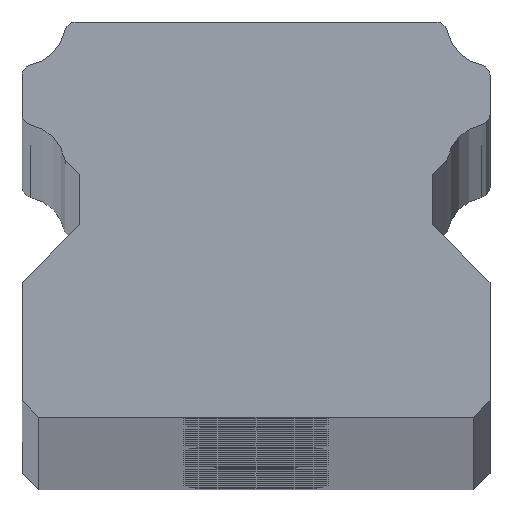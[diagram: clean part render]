
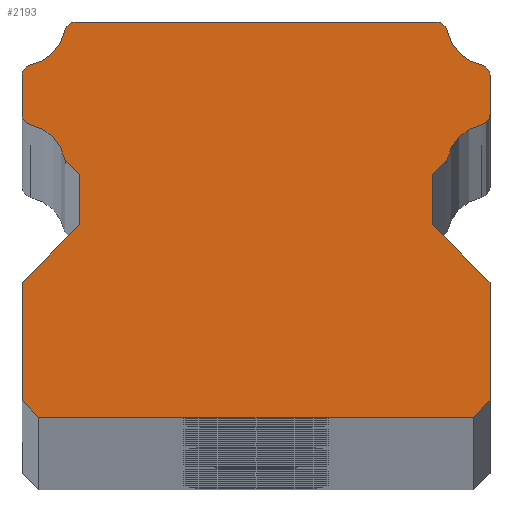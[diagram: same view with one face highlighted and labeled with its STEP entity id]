
A CAD part, top view. The second image highlights one B-rep face of the part: STEP entity #2193.
In plain terms, the highlighted planar face has unit normal (0, 0, 1).
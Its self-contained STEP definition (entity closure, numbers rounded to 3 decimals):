
#217=FACE_OUTER_BOUND('',#357,.T.);
#357=EDGE_LOOP('',(#1562,#1563,#1564,#1565,#1566,#1567,#1568,#1569,#1570,
#1571,#1572,#1573,#1574,#1575,#1576,#1577,#1578,#1579,#1580,#1581,#1582,
#1583,#1584,#1585));
#624=LINE('',#3453,#752);
#625=LINE('',#3455,#753);
#626=LINE('',#3457,#754);
#627=LINE('',#3459,#755);
#628=LINE('',#3461,#756);
#629=LINE('',#3463,#757);
#630=LINE('',#3465,#758);
#631=LINE('',#3467,#759);
#632=LINE('',#3469,#760);
#633=LINE('',#3475,#761);
#634=LINE('',#3483,#762);
#635=LINE('',#3491,#763);
#636=LINE('',#3497,#764);
#637=LINE('',#3498,#765);
#752=VECTOR('',#2686,1.);
#753=VECTOR('',#2687,1.);
#754=VECTOR('',#2688,1.);
#755=VECTOR('',#2689,1.);
#756=VECTOR('',#2690,1.);
#757=VECTOR('',#2691,1.);
#758=VECTOR('',#2692,1.);
#759=VECTOR('',#2693,1.);
#760=VECTOR('',#2694,1.);
#761=VECTOR('',#2699,1.);
#762=VECTOR('',#2706,1.);
#763=VECTOR('',#2713,1.);
#764=VECTOR('',#2718,1.);
#765=VECTOR('',#2719,1.);
#876=CIRCLE('',#2346,4.2);
#877=CIRCLE('',#2347,1.);
#878=CIRCLE('',#2348,1.);
#879=CIRCLE('',#2349,4.2);
#880=CIRCLE('',#2350,1.);
#881=CIRCLE('',#2351,1.);
#882=CIRCLE('',#2352,4.2);
#883=CIRCLE('',#2353,1.);
#884=CIRCLE('',#2354,1.);
#885=CIRCLE('',#2355,4.2);
#1062=VERTEX_POINT('',#3451);
#1063=VERTEX_POINT('',#3452);
#1064=VERTEX_POINT('',#3454);
#1065=VERTEX_POINT('',#3456);
#1066=VERTEX_POINT('',#3458);
#1067=VERTEX_POINT('',#3460);
#1068=VERTEX_POINT('',#3462);
#1069=VERTEX_POINT('',#3464);
#1070=VERTEX_POINT('',#3466);
#1071=VERTEX_POINT('',#3468);
#1072=VERTEX_POINT('',#3470);
#1073=VERTEX_POINT('',#3472);
#1074=VERTEX_POINT('',#3474);
#1075=VERTEX_POINT('',#3476);
#1076=VERTEX_POINT('',#3478);
#1077=VERTEX_POINT('',#3480);
#1078=VERTEX_POINT('',#3482);
#1079=VERTEX_POINT('',#3484);
#1080=VERTEX_POINT('',#3486);
#1081=VERTEX_POINT('',#3488);
#1082=VERTEX_POINT('',#3490);
#1083=VERTEX_POINT('',#3492);
#1084=VERTEX_POINT('',#3494);
#1085=VERTEX_POINT('',#3496);
#1262=EDGE_CURVE('',#1062,#1063,#624,.T.);
#1263=EDGE_CURVE('',#1064,#1062,#625,.T.);
#1264=EDGE_CURVE('',#1065,#1064,#626,.T.);
#1265=EDGE_CURVE('',#1066,#1065,#627,.T.);
#1266=EDGE_CURVE('',#1067,#1066,#628,.T.);
#1267=EDGE_CURVE('',#1068,#1067,#629,.T.);
#1268=EDGE_CURVE('',#1069,#1068,#630,.T.);
#1269=EDGE_CURVE('',#1070,#1069,#631,.T.);
#1270=EDGE_CURVE('',#1071,#1070,#632,.T.);
#1271=EDGE_CURVE('',#1072,#1071,#876,.T.);
#1272=EDGE_CURVE('',#1073,#1072,#877,.T.);
#1273=EDGE_CURVE('',#1074,#1073,#633,.T.);
#1274=EDGE_CURVE('',#1075,#1074,#878,.T.);
#1275=EDGE_CURVE('',#1076,#1075,#879,.T.);
#1276=EDGE_CURVE('',#1077,#1076,#880,.T.);
#1277=EDGE_CURVE('',#1078,#1077,#634,.T.);
#1278=EDGE_CURVE('',#1079,#1078,#881,.T.);
#1279=EDGE_CURVE('',#1080,#1079,#882,.T.);
#1280=EDGE_CURVE('',#1081,#1080,#883,.T.);
#1281=EDGE_CURVE('',#1082,#1081,#635,.T.);
#1282=EDGE_CURVE('',#1083,#1082,#884,.T.);
#1283=EDGE_CURVE('',#1084,#1083,#885,.T.);
#1284=EDGE_CURVE('',#1085,#1084,#636,.T.);
#1285=EDGE_CURVE('',#1063,#1085,#637,.T.);
#1562=ORIENTED_EDGE('',*,*,#1262,.F.);
#1563=ORIENTED_EDGE('',*,*,#1263,.F.);
#1564=ORIENTED_EDGE('',*,*,#1264,.F.);
#1565=ORIENTED_EDGE('',*,*,#1265,.F.);
#1566=ORIENTED_EDGE('',*,*,#1266,.F.);
#1567=ORIENTED_EDGE('',*,*,#1267,.F.);
#1568=ORIENTED_EDGE('',*,*,#1268,.F.);
#1569=ORIENTED_EDGE('',*,*,#1269,.F.);
#1570=ORIENTED_EDGE('',*,*,#1270,.F.);
#1571=ORIENTED_EDGE('',*,*,#1271,.F.);
#1572=ORIENTED_EDGE('',*,*,#1272,.F.);
#1573=ORIENTED_EDGE('',*,*,#1273,.F.);
#1574=ORIENTED_EDGE('',*,*,#1274,.F.);
#1575=ORIENTED_EDGE('',*,*,#1275,.F.);
#1576=ORIENTED_EDGE('',*,*,#1276,.F.);
#1577=ORIENTED_EDGE('',*,*,#1277,.F.);
#1578=ORIENTED_EDGE('',*,*,#1278,.F.);
#1579=ORIENTED_EDGE('',*,*,#1279,.F.);
#1580=ORIENTED_EDGE('',*,*,#1280,.F.);
#1581=ORIENTED_EDGE('',*,*,#1281,.F.);
#1582=ORIENTED_EDGE('',*,*,#1282,.F.);
#1583=ORIENTED_EDGE('',*,*,#1283,.F.);
#1584=ORIENTED_EDGE('',*,*,#1284,.F.);
#1585=ORIENTED_EDGE('',*,*,#1285,.F.);
#2139=PLANE('',#2345);
#2193=ADVANCED_FACE('',(#217),#2139,.T.);
#2345=AXIS2_PLACEMENT_3D('',#3450,#2684,#2685);
#2346=AXIS2_PLACEMENT_3D('',#3471,#2695,#2696);
#2347=AXIS2_PLACEMENT_3D('',#3473,#2697,#2698);
#2348=AXIS2_PLACEMENT_3D('',#3477,#2700,#2701);
#2349=AXIS2_PLACEMENT_3D('',#3479,#2702,#2703);
#2350=AXIS2_PLACEMENT_3D('',#3481,#2704,#2705);
#2351=AXIS2_PLACEMENT_3D('',#3485,#2707,#2708);
#2352=AXIS2_PLACEMENT_3D('',#3487,#2709,#2710);
#2353=AXIS2_PLACEMENT_3D('',#3489,#2711,#2712);
#2354=AXIS2_PLACEMENT_3D('',#3493,#2714,#2715);
#2355=AXIS2_PLACEMENT_3D('',#3495,#2716,#2717);
#2684=DIRECTION('center_axis',(0.,0.,1.));
#2685=DIRECTION('ref_axis',(1.,0.,0.));
#2686=DIRECTION('',(0.707,0.707,0.));
#2687=DIRECTION('',(0.,1.,0.));
#2688=DIRECTION('',(-0.707,0.707,0.));
#2689=DIRECTION('',(-1.,0.,0.));
#2690=DIRECTION('',(-0.707,-0.707,0.));
#2691=DIRECTION('',(0.,-1.,0.));
#2692=DIRECTION('',(0.707,-0.707,0.));
#2693=DIRECTION('',(0.,-1.,0.));
#2694=DIRECTION('',(-0.707,-0.707,0.));
#2695=DIRECTION('center_axis',(0.,0.,1.));
#2696=DIRECTION('ref_axis',(-0.986,0.169,0.));
#2697=DIRECTION('center_axis',(0.,0.,-1.));
#2698=DIRECTION('ref_axis',(0.192,-0.981,0.));
#2699=DIRECTION('',(0.,-1.,0.));
#2700=DIRECTION('center_axis',(0.,0.,-1.));
#2701=DIRECTION('ref_axis',(1.,0.,0.));
#2702=DIRECTION('center_axis',(0.,0.,1.));
#2703=DIRECTION('ref_axis',(-0.192,-0.981,0.));
#2704=DIRECTION('center_axis',(0.,0.,-1.));
#2705=DIRECTION('ref_axis',(0.981,0.192,0.));
#2706=DIRECTION('',(1.,0.,0.));
#2707=DIRECTION('center_axis',(0.,0.,-1.));
#2708=DIRECTION('ref_axis',(0.,1.,0.));
#2709=DIRECTION('center_axis',(0.,0.,1.));
#2710=DIRECTION('ref_axis',(0.981,-0.192,0.));
#2711=DIRECTION('center_axis',(0.,0.,-1.));
#2712=DIRECTION('ref_axis',(-0.192,0.981,0.));
#2713=DIRECTION('',(0.,1.,0.));
#2714=DIRECTION('center_axis',(0.,0.,-1.));
#2715=DIRECTION('ref_axis',(-1.,0.,0.));
#2716=DIRECTION('center_axis',(0.,0.,1.));
#2717=DIRECTION('ref_axis',(0.192,0.981,0.));
#2718=DIRECTION('',(-0.707,0.707,0.));
#2719=DIRECTION('',(0.,1.,0.));
#3450=CARTESIAN_POINT('Origin',(0.,-19.838,
4000.));
#3451=CARTESIAN_POINT('',(-22.5,-25.,4000.));
#3452=CARTESIAN_POINT('',(-17.,-19.5,4000.));
#3453=CARTESIAN_POINT('',(-12.834,-15.334,4000.));
#3454=CARTESIAN_POINT('',(-22.5,-36.4,4000.));
#3455=CARTESIAN_POINT('',(-22.5,-22.419,4000.));
#3456=CARTESIAN_POINT('',(-20.9,-38.,4000.));
#3457=CARTESIAN_POINT('',(-21.016,-37.884,4000.));
#3458=CARTESIAN_POINT('',(20.9,-38.,4000.));
#3459=CARTESIAN_POINT('',(-10.45,-38.,4000.));
#3460=CARTESIAN_POINT('',(22.5,-36.4,4000.));
#3461=CARTESIAN_POINT('',(20.216,-38.684,4000.));
#3462=CARTESIAN_POINT('',(22.5,-25.,4000.));
#3463=CARTESIAN_POINT('',(22.5,-28.119,4000.));
#3464=CARTESIAN_POINT('',(17.,-19.5,4000.));
#3465=CARTESIAN_POINT('',(15.584,-18.084,4000.));
#3466=CARTESIAN_POINT('',(17.,-14.65,4000.));
#3467=CARTESIAN_POINT('',(17.,-19.669,4000.));
#3468=CARTESIAN_POINT('',(18.361,-13.289,4000.));
#3469=CARTESIAN_POINT('',(11.453,-20.197,4000.));
#3470=CARTESIAN_POINT('',(21.692,-9.878,4000.));
#3471=CARTESIAN_POINT('Origin',(22.5,-14.,4000.));
#3472=CARTESIAN_POINT('',(22.5,-8.897,4000.));
#3473=CARTESIAN_POINT('Origin',(21.5,-8.897,4000.));
#3474=CARTESIAN_POINT('',(22.5,-5.103,4000.));
#3475=CARTESIAN_POINT('',(22.5,-14.367,4000.));
#3476=CARTESIAN_POINT('',(21.692,-4.122,4000.));
#3477=CARTESIAN_POINT('Origin',(21.5,-5.103,4000.));
#3478=CARTESIAN_POINT('',(18.378,-0.808,4000.));
#3479=CARTESIAN_POINT('Origin',(22.5,0.,4000.));
#3480=CARTESIAN_POINT('',(17.397,0.,4000.));
#3481=CARTESIAN_POINT('Origin',(17.397,-1.,4000.));
#3482=CARTESIAN_POINT('',(-17.397,0.,4000.));
#3483=CARTESIAN_POINT('',(8.699,0.,4000.));
#3484=CARTESIAN_POINT('',(-18.378,-0.808,4000.));
#3485=CARTESIAN_POINT('Origin',(-17.397,-1.,4000.));
#3486=CARTESIAN_POINT('',(-21.692,-4.122,4000.));
#3487=CARTESIAN_POINT('Origin',(-22.5,0.,4000.));
#3488=CARTESIAN_POINT('',(-22.5,-5.103,4000.));
#3489=CARTESIAN_POINT('Origin',(-21.5,-5.103,4000.));
#3490=CARTESIAN_POINT('',(-22.5,-8.897,4000.));
#3491=CARTESIAN_POINT('',(-22.5,-12.47,4000.));
#3492=CARTESIAN_POINT('',(-21.692,-9.878,4000.));
#3493=CARTESIAN_POINT('Origin',(-21.5,-8.897,4000.));
#3494=CARTESIAN_POINT('',(-18.361,-13.289,4000.));
#3495=CARTESIAN_POINT('Origin',(-22.5,-14.,4000.));
#3496=CARTESIAN_POINT('',(-17.,-14.65,4000.));
#3497=CARTESIAN_POINT('',(-12.133,-19.517,4000.));
#3498=CARTESIAN_POINT('',(-17.,-17.244,4000.));
